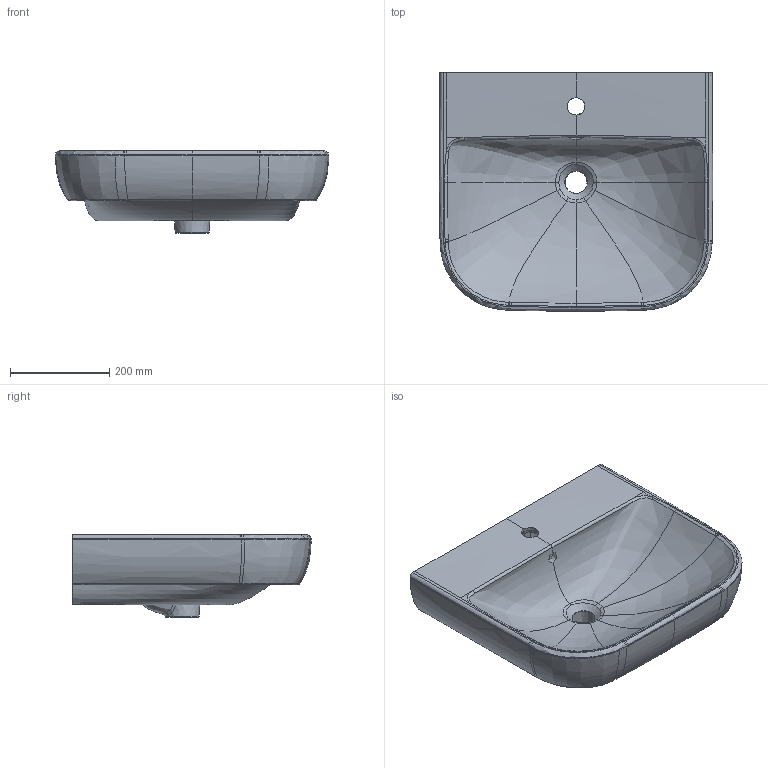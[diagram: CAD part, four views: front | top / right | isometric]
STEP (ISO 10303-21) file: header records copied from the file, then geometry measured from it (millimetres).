
FILE_DESCRIPTION(/* description */ (''),/* implementation_level */ '2;1');
FILE_NAME(/* name */ 'C:\Planerdaten\Export PLA\500.227.01.1\stp\500227.stp',/* time_stamp */ '2020-04-30T09:10:28+02:00',/* author */ ('JANAN'),/* organization */ (''),/* preprocessor_version */ 'ST-DEVELOPER v16.13',/* originating_system */ 'Autodesk Inventor 2018',/* authorisation */ '');
FILE_SCHEMA (('AUTOMOTIVE_DESIGN { 1 0 10303 214 3 1 1 }'));
Products named in the file (1): WT Ge+Smy B55 m/ÜLF m/HLo
Bounding box: 549.76 x 479.66 x 165 mm (x, y, z)
Volume: 13178587.7 mm3; surface area: 855997.2 mm2
Topology: 1 solids, 1 shells, 231 faces, 595 edges, 363 vertices
Faces by surface type: bspline 180, plane 29, cylinder 19, cone 2, torus 1
Full cylindrical faces by diameter (mm): 22 x1, 46 x2
Entity records: 50810 total; most frequent: CARTESIAN_POINT 46050, ORIENTED_EDGE 1180, DIRECTION 612, EDGE_CURVE 590, VERTEX_POINT 362, B_SPLINE_CURVE_WITH_KNOTS 283, AXIS2_PLACEMENT_3D 265, EDGE_LOOP 240
